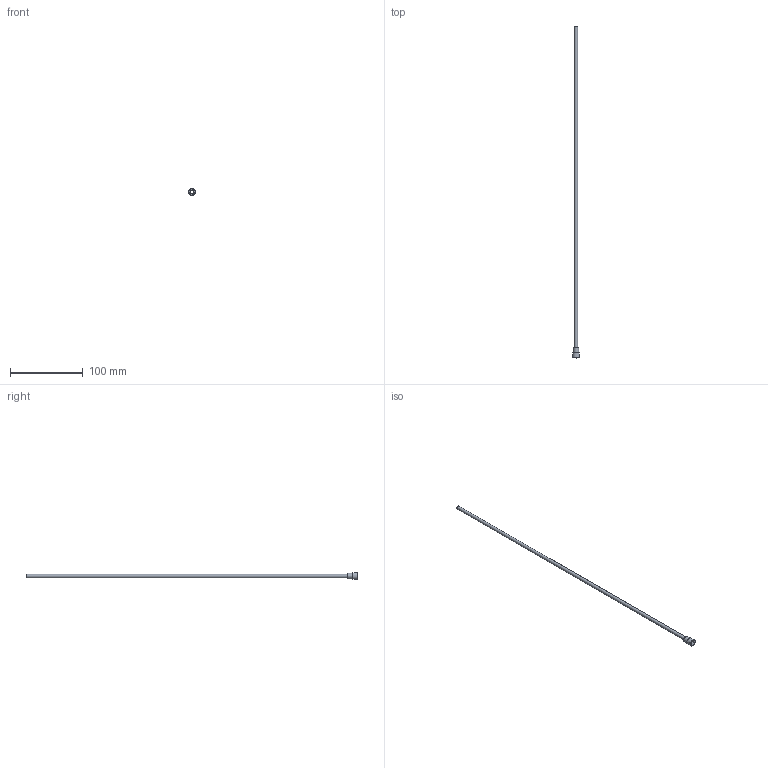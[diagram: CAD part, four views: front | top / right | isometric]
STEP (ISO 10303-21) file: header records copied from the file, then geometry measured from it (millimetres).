
FILE_DESCRIPTION(/* description */ (''),/* implementation_level */ '2;1');
FILE_NAME(/* name */ 'C:/Users/drich/Desktop/JR187T-18 v1.step',/* time_stamp */ '2019-12-30T13:04:10-06:00',/* author */ (''),/* organization */ (''),/* preprocessor_version */ 'ST-DEVELOPER v18',/* originating_system */ 'Autodesk Translation Framework v8.12.0.6',/* authorisation */ '');
FILE_SCHEMA (('AUTOMOTIVE_DESIGN { 1 0 10303 214 3 1 1 }'));
Length unit declared in the file: inch
Products named in the file (1): JR187T-18
Bounding box: 9.4 x 457.2 x 9.4 mm (x, y, z)
Volume: 2033 mm3; surface area: 13194 mm2
Topology: 1 solids, 1 shells, 19 faces, 47 edges, 33 vertices
Faces by surface type: plane 11, cylinder 4, torus 3, cone 1
Full cylindrical faces by diameter (mm): 4.242 x1, 4.724 x1, 7.818 x1, 9.398 x1
Entity records: 624 total; most frequent: DIRECTION 111, CARTESIAN_POINT 100, ORIENTED_EDGE 94, EDGE_CURVE 47, AXIS2_PLACEMENT_3D 44, VERTEX_POINT 33, EDGE_LOOP 24, CIRCLE 24
